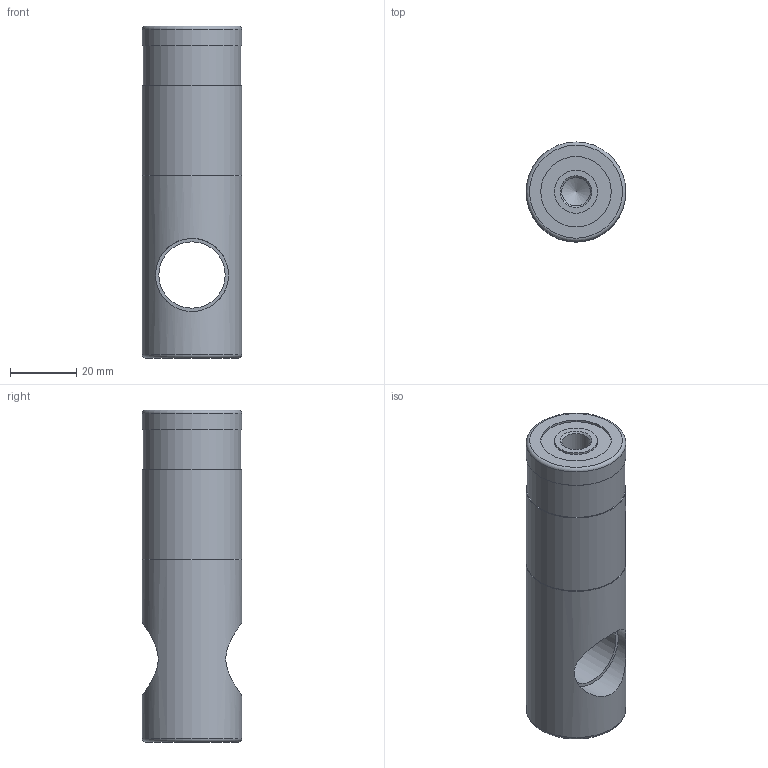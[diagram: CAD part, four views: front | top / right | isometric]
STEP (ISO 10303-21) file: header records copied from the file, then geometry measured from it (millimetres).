
FILE_DESCRIPTION(('STEP AP242'),'1');
FILE_NAME('A.6020 Feststellpatrone.stp','2026-04-23T09:34:58',(' '),(' '),'Spatial InterOp 3D',' ',' ');
FILE_SCHEMA(('AP242_MANAGED_MODEL_BASED_3D_ENGINEERING_MIM_LF {1 0 10303 442 1 1 4}'));
Length unit declared in the file: millimetre
Products named in the file (1): A.6020 Feststellpatrone
Bounding box: 30 x 30 x 100 mm (x, y, z)
Volume: 59863.8 mm3; surface area: 12144.5 mm2
Topology: 1 solids, 1 shells, 25 faces, 45 edges, 28 vertices
Faces by surface type: cylinder 11, plane 8, cone 4, torus 2
Full cylindrical faces by diameter (mm): 8.566 x2, 13 x1, 20 x1, 21.2 x1, 22 x2, 29.5 x1, 30 x3
Entity records: 1003 total; most frequent: CARTESIAN_POINT 283, DIRECTION 98, EDGE_LOOP 50, ORIENTED_EDGE 50, AXIS2_PLACEMENT_3D 49, FACE_OUTER_BOUND 38, STYLED_ITEM 26, PRESENTATION_STYLE_ASSIGNMENT 26
